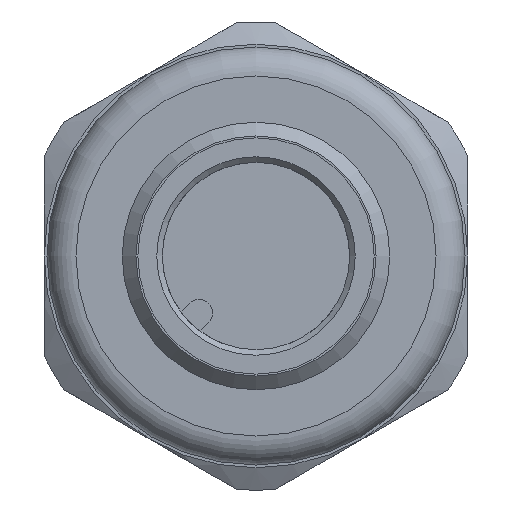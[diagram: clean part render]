
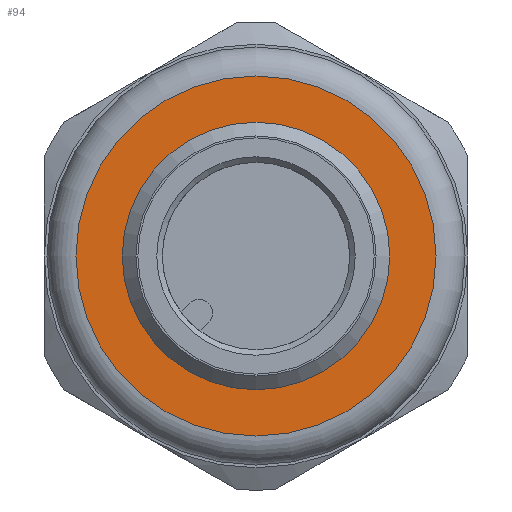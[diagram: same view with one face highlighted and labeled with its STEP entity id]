
A CAD part, left-side view. The second image highlights one B-rep face of the part: STEP entity #94.
In plain terms, the highlighted planar face has unit normal (-1, 0, 0).
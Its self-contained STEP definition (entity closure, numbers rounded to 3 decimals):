
#94 = ADVANCED_FACE( '', ( #173, #174 ), #175, .F. );
#173 = FACE_OUTER_BOUND( '', #299, .T. );
#174 = FACE_BOUND( '', #300, .T. );
#175 = PLANE( '', #301 );
#299 = EDGE_LOOP( '', ( #533 ) );
#300 = EDGE_LOOP( '', ( #534 ) );
#301 = AXIS2_PLACEMENT_3D( '', #535, #536, #537 );
#533 = ORIENTED_EDGE( '', *, *, #808, .F. );
#534 = ORIENTED_EDGE( '', *, *, #809, .T. );
#535 = CARTESIAN_POINT( '', ( 15.8, 5.4, 0. ) );
#536 = DIRECTION( '', ( 1., 0., 0. ) );
#537 = DIRECTION( '', ( 0., 0., -1. ) );
#808 = EDGE_CURVE( '', #961, #961, #962, .T. );
#809 = EDGE_CURVE( '', #963, #963, #964, .T. );
#961 = VERTEX_POINT( '', #1294 );
#962 = CIRCLE( '', #1295, 8.075 );
#963 = VERTEX_POINT( '', #1296 );
#964 = CIRCLE( '', #1297, 5.4 );
#1294 = CARTESIAN_POINT( '', ( 15.8, 0., -8.075 ) );
#1295 = AXIS2_PLACEMENT_3D( '', #1464, #1465, #1466 );
#1296 = CARTESIAN_POINT( '', ( 15.8, 0., -5.4 ) );
#1297 = AXIS2_PLACEMENT_3D( '', #1467, #1468, #1469 );
#1464 = CARTESIAN_POINT( '', ( 15.8, 0., 0. ) );
#1465 = DIRECTION( '', ( 1., 0., 0. ) );
#1466 = DIRECTION( '', ( 0., 0., -1. ) );
#1467 = CARTESIAN_POINT( '', ( 15.8, 0., 0. ) );
#1468 = DIRECTION( '', ( 1., 0., 0. ) );
#1469 = DIRECTION( '', ( 0., 0., -1. ) );
